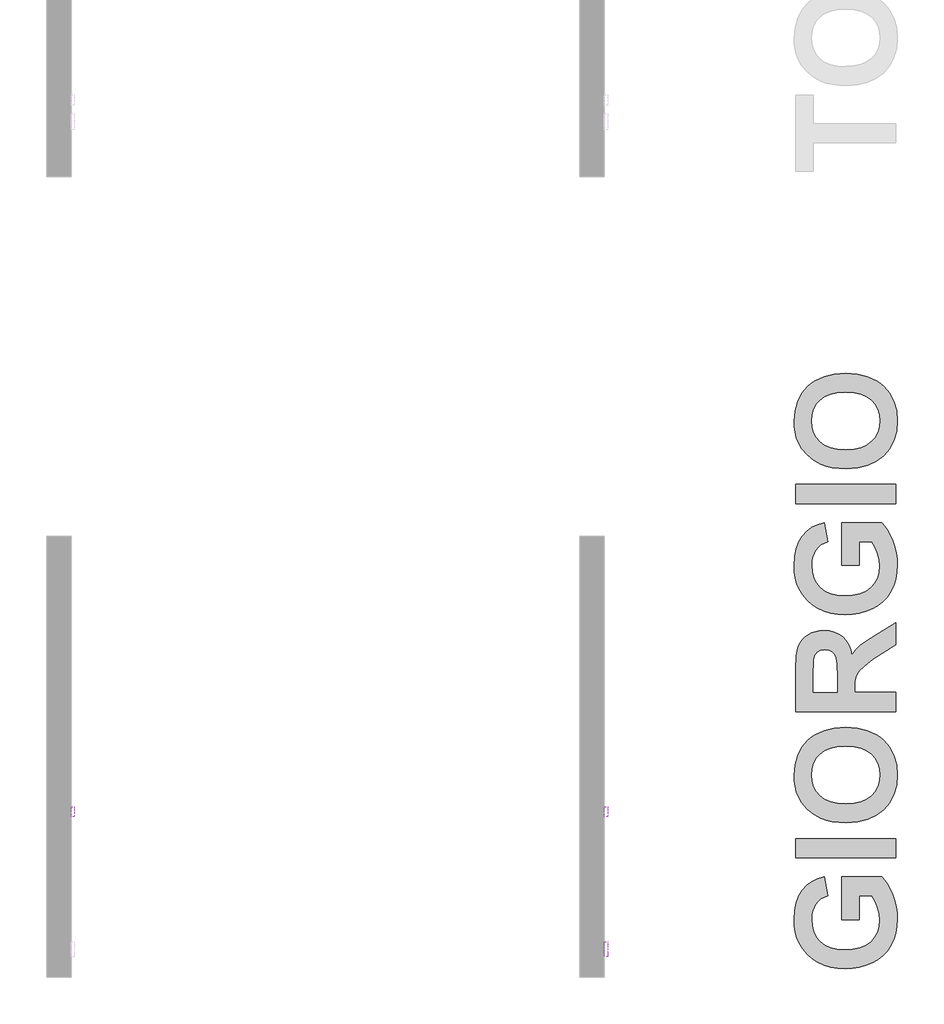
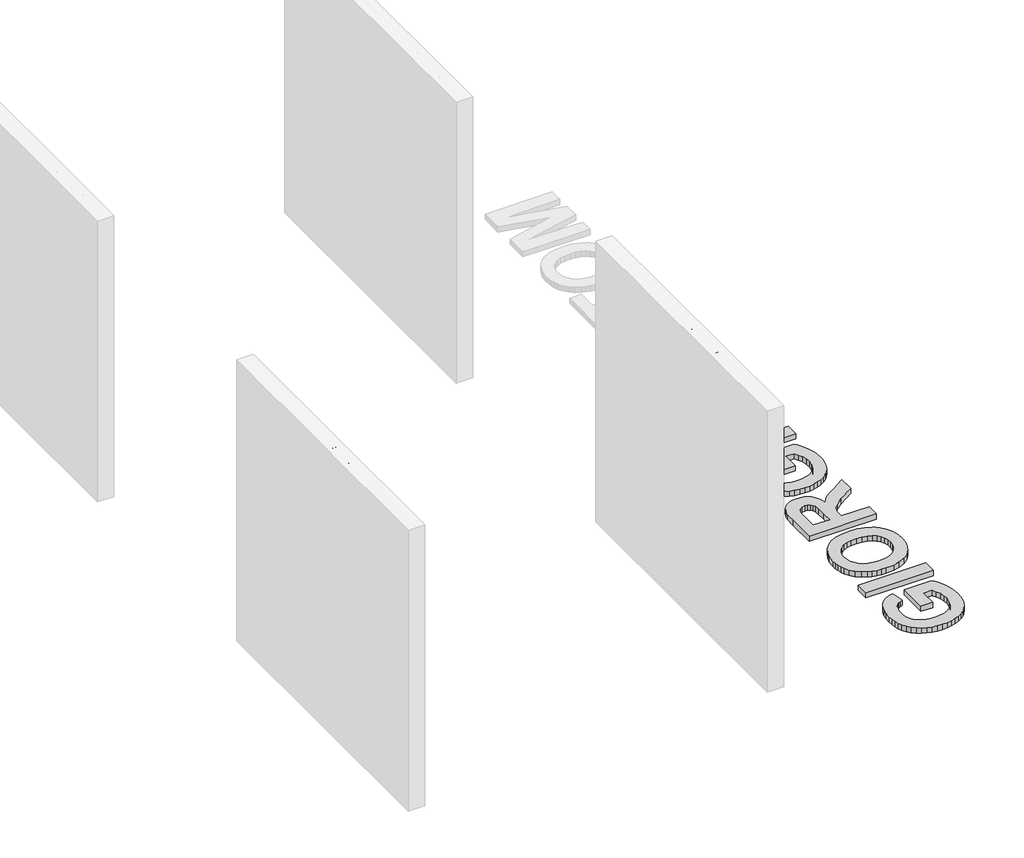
# One storey, part 3 of 6: 4 proxies.
"""IFC4 building model written with IfcOpenShell, lengths in millimetres."""

from ifc_helpers import new_model, si_unit, frame, origin, origin_with_axes, place, context, project, spatial, polyline, outline, extrude, element, save

model = new_model("IFC4")

# Units and contexts
model_context = context("Model", 3, world=origin())
ifc_project = project(units=[si_unit("LENGTHUNIT", "METRE", prefix="MILLI")], contexts=[model_context])

# Site, building, storey
site = spatial("IfcSite", under=ifc_project)
building = spatial("IfcBuilding", under=site)
storey = spatial("IfcBuildingStorey", under=building, Name="PORTOBELLO - SHOWROOM", Elevation=0.0)

# Proxies
placement = place(None, origin())
element("IfcBuildingElementProxy", 1, Name="10mm Arial", ObjectType="10mm Arial", at=placement, inside=storey, context=model_context, shape_type="SweptSolid", body=[
    extrude(outline(polyline([(-8147.5640107, 2596.6485127), (-8147.5640107, 2609.2055514), (-8106.7536347, 2609.2055514), (-8106.7536347, 2571.6570625), (-8126.9013053, 2559.8112622), (-8148.2016728, 2555.8381367), (-8162.2884876, 2557.4169636), (-8175.0202703, 2562.1534443), (-8185.5968776, 2569.8820318), (-8193.2181663, 2580.4371794), (-8197.8258883, 2593.0984514), (-8199.3617956, 2607.1454123), (-8197.8320197, 2621.2935407), (-8193.2426918, 2634.454519), (-8185.7838843, 2645.4940446), (-8175.6456697, 2653.2778145), (-8163.2970974, 2657.8947335), (-8149.2072169, 2659.4337065), (-8129.5623184, 2655.8652512), (-8115.791269, 2645.9324373), (-8108.2006372, 2629.3164338), (-8119.7766573, 2626.0545468), (-8125.5033537, 2637.6673551), (-8135.2890148, 2644.3628074), (-8149.4034207, 2646.8766677), (-8165.4798639, 2644.1666037), (-8176.4182218, 2637.0542185), (-8182.8806822, 2627.378922), (-8186.8047568, 2607.6604471), (-8182.0836046, 2585.7714684), (-8168.3493434, 2572.6748693), (-8149.2072169, 2568.3951754), (-8132.0271278, 2571.6202743), (-8119.3106735, 2578.4996676), (-8119.3106735, 2596.6485127), (-8147.5640107, 2596.6485127)])), frame((-9940.3623775, 0.0, 0.0), z_axis=(1.0, 0.0, 0.0), x_axis=(0.0, 1.0, 0.0)), (0.0, 0.0, 1.0), 20.0),
    extrude(outline(polyline([(-9920.3623775, -8075.3610378), (-9920.3623775, -8087.9180765), (-9940.3623775, -8087.9180765), (-9940.3623775, -8075.3610378), (-9920.3623775, -8075.3610378)])), frame((0.0, 0.0, 2645.3070379), z_axis=(0.0, 0.0, 1.0), x_axis=(1.0, 0.0, 0.0)), (0.0, 0.0, 1.0), 12.5570388),
    extrude(outline(polyline([(-9920.3623775, -8075.3610378), (-9920.3623775, -8087.9180765), (-9940.3623775, -8087.9180765), (-9940.3623775, -8075.3610378), (-9920.3623775, -8075.3610378)])), frame((0.0, 0.0, 2557.4077665), z_axis=(0.0, 0.0, 1.0), x_axis=(1.0, 0.0, 0.0)), (0.0, 0.0, 1.0), 73.7726028),
    extrude(outline(polyline([(-8059.6647393, 2594.2940679), (-8056.9485439, 2612.0811624), (-8048.7999577, 2624.5830188), (-8038.7322538, 2630.7082541), (-8026.6779871, 2632.7499991), (-8013.4863519, 2630.26373), (-8002.9495984, 2622.8049225), (-7996.0426139, 2610.962188), (-7993.7402858, 2595.3241375), (-7997.8115132, 2572.9814377), (-8009.6695762, 2560.3385598), (-8026.6779871, 2555.8381367), (-8040.0290378, 2558.3152088), (-8050.5535286, 2565.7464251), (-8057.3869366, 2577.83748), (-8059.6647393, 2594.2940679)]), holes=[polyline([(-8047.1077005, 2594.3185934), (-8045.6545667, 2582.9541054), (-8041.295165, 2574.8576358), (-8034.7346028, 2570.0107905), (-8026.6779871, 2568.3951754), (-8018.6581596, 2570.0199876), (-8012.1098601, 2574.894424), (-8007.7504584, 2583.0981925), (-8006.2973245, 2594.7110008), (-8007.7596555, 2605.744395), (-8012.1466483, 2613.7305), (-8018.7041448, 2618.5773453), (-8026.6779871, 2620.1929604), (-8034.7346028, 2618.5834766), (-8041.295165, 2613.7550255), (-8045.6545667, 2605.67695), (-8047.1077005, 2594.3185934)])]), frame((-9940.3623775, 0.0, 0.0), z_axis=(1.0, 0.0, 0.0), x_axis=(0.0, 1.0, 0.0)), (0.0, 0.0, 1.0), 20.0),
    extrude(outline(polyline([(-7979.6136172, 2557.4077665), (-7979.6136172, 2631.1803693), (-7968.6262082, 2631.1803693), (-7968.6262082, 2620.2665368), (-7960.8271099, 2630.321978), (-7952.9789607, 2632.7499991), (-7940.372871, 2628.8749755), (-7944.5667258, 2617.6177864), (-7953.3958936, 2620.1929604), (-7960.4960161, 2617.7158883), (-7965.0209647, 2610.8487577), (-7967.0565784, 2596.1825288), (-7967.0565784, 2557.4077665), (-7979.6136172, 2557.4077665)])), frame((-9940.3623775, 0.0, 0.0), z_axis=(1.0, 0.0, 0.0), x_axis=(0.0, 1.0, 0.0)), (0.0, 0.0, 1.0), 20.0),
    extrude(outline(polyline([(-7935.6639815, 2551.1292471), (-7923.1069427, 2549.5596173), (-7919.0357153, 2542.9377414), (-7906.8465585, 2540.1418382), (-7893.9952142, 2543.3056234), (-7887.8638476, 2552.1838422), (-7887.0054562, 2566.8255456), (-7895.8468869, 2559.7622113), (-7906.6258293, 2557.4077665), (-7919.5722099, 2560.1484874), (-7929.2260466, 2568.37065), (-7935.2317201, 2580.4249167), (-7937.2336113, 2594.6619499), (-7933.6406305, 2614.1229074), (-7923.2418328, 2627.8939568), (-7907.238966, 2632.7499991), (-7896.0369592, 2630.0031469), (-7887.0054562, 2621.7625902), (-7887.0054562, 2631.1803693), (-7874.4484175, 2631.1803693), (-7874.4484175, 2567.4877332), (-7877.8819828, 2543.0971569), (-7888.7590271, 2531.7541287), (-7907.0918132, 2527.5847994), (-7918.7751322, 2529.0532617), (-7927.9752478, 2533.4586486), (-7933.8766881, 2540.8132229), (-7935.6639815, 2551.1292471)]), holes=[polyline([(-7924.6765726, 2595.5203412), (-7923.336869, 2584.0025691), (-7919.3177582, 2576.0839091), (-7913.2752964, 2571.4945813), (-7905.8655399, 2569.9648053), (-7898.5109656, 2571.4853842), (-7892.437847, 2576.0471209), (-7888.3635539, 2583.8646133), (-7887.0054562, 2595.1524592), (-7888.4034078, 2606.0387006), (-7892.5972626, 2613.8776528), (-7898.759286, 2618.6141335), (-7906.0617436, 2620.1929604), (-7913.2323768, 2618.6386589), (-7919.2441818, 2613.9757546), (-7923.3184749, 2606.2532984), (-7924.6765726, 2595.5203412)])]), frame((-9940.3623775, 0.0, 0.0), z_axis=(1.0, 0.0, 0.0), x_axis=(0.0, 1.0, 0.0)), (0.0, 0.0, 1.0), 20.0),
    extrude(outline(polyline([(-9920.3623775, -7843.0558206), (-9920.3623775, -7855.6128593), (-9940.3623775, -7855.6128593), (-9940.3623775, -7843.0558206), (-9920.3623775, -7843.0558206)])), frame((0.0, 0.0, 2645.3070379), z_axis=(0.0, 0.0, 1.0), x_axis=(1.0, 0.0, 0.0)), (0.0, 0.0, 1.0), 12.5570388),
    extrude(outline(polyline([(-9920.3623775, -7843.0558206), (-9920.3623775, -7855.6128593), (-9940.3623775, -7855.6128593), (-9940.3623775, -7843.0558206), (-9920.3623775, -7843.0558206)])), frame((0.0, 0.0, 2557.4077665), z_axis=(0.0, 0.0, 1.0), x_axis=(1.0, 0.0, 0.0)), (0.0, 0.0, 1.0), 73.7726028),
    extrude(outline(polyline([(-7827.3595221, 2594.2940679), (-7824.6433267, 2612.0811624), (-7816.4947405, 2624.5830188), (-7806.4270366, 2630.7082541), (-7794.3727699, 2632.7499991), (-7781.1811346, 2630.26373), (-7770.6443812, 2622.8049225), (-7763.7373967, 2610.962188), (-7761.4350686, 2595.3241375), (-7765.506296, 2572.9814377), (-7777.3643589, 2560.3385598), (-7794.3727699, 2555.8381367), (-7807.7238206, 2558.3152088), (-7818.2483113, 2565.7464251), (-7825.0817194, 2577.83748), (-7827.3595221, 2594.2940679)]), holes=[polyline([(-7814.8024833, 2594.3185934), (-7813.3493494, 2582.9541054), (-7808.9899478, 2574.8576358), (-7802.4293856, 2570.0107905), (-7794.3727699, 2568.3951754), (-7786.3529424, 2570.0199876), (-7779.8046428, 2574.894424), (-7775.4452412, 2583.0981925), (-7773.9921073, 2594.7110008), (-7775.4544383, 2605.744395), (-7779.841431, 2613.7305), (-7786.3989276, 2618.5773453), (-7794.3727699, 2620.1929604), (-7802.4293856, 2618.5834766), (-7808.9899478, 2613.7550255), (-7813.3493494, 2605.67695), (-7814.8024833, 2594.3185934)])]), frame((-9940.3623775, 0.0, 0.0), z_axis=(1.0, 0.0, 0.0), x_axis=(0.0, 1.0, 0.0)), (0.0, 0.0, 1.0), 20.0),
    extrude(outline(polyline([(-7706.4980239, 2557.4077665), (-7706.4980239, 2657.8640767), (-7668.16472, 2657.8640767), (-7649.3904756, 2654.908758), (-7638.3049648, 2645.8220727), (-7634.295051, 2632.9707283), (-7637.6673026, 2621.2352927), (-7647.8576339, 2612.3448111), (-7635.4845361, 2602.976083), (-7631.1557913, 2587.3533609), (-7634.11111, 2573.8520917), (-7641.4319617, 2564.2381089), (-7652.358057, 2559.1368119), (-7668.4590256, 2557.4077665), (-7706.4980239, 2557.4077665)]), holes=[polyline([(-7693.9409852, 2617.0537007), (-7671.0096741, 2617.0537007), (-7657.6187695, 2618.1328212), (-7649.5621538, 2622.7803971), (-7646.8520898, 2630.9596401), (-7649.3782128, 2639.1511459), (-7656.6132254, 2643.9949255), (-7672.7509823, 2645.3070379), (-7693.9409852, 2645.3070379), (-7693.9409852, 2617.0537007)]), polyline([(-7693.9409852, 2569.9648053), (-7668.1892455, 2569.9648053), (-7658.8695683, 2570.4553146), (-7650.9846309, 2573.1899041), (-7645.7607065, 2578.7694477), (-7643.7128301, 2587.2307336), (-7646.1163258, 2596.9918692), (-7653.9031614, 2602.8166675), (-7669.4155188, 2604.4966619), (-7693.9409852, 2604.4966619), (-7693.9409852, 2569.9648053)])]), frame((-9940.3623775, 0.0, 0.0), z_axis=(1.0, 0.0, 0.0), x_axis=(0.0, 1.0, 0.0)), (0.0, 0.0, 1.0), 20.0),
    extrude(outline(polyline([(-7615.4594929, 2557.4077665), (-7615.4594929, 2631.1803693), (-7604.4720839, 2631.1803693), (-7604.4720839, 2620.2665368), (-7596.6729857, 2630.321978), (-7588.8248364, 2632.7499991), (-7576.2187467, 2628.8749755), (-7580.4126015, 2617.6177864), (-7589.2417693, 2620.1929604), (-7596.3418919, 2617.7158883), (-7600.8668404, 2610.8487577), (-7602.9024541, 2596.1825288), (-7602.9024541, 2557.4077665), (-7615.4594929, 2557.4077665)])), frame((-9940.3623775, 0.0, 0.0), z_axis=(1.0, 0.0, 0.0), x_axis=(0.0, 1.0, 0.0)), (0.0, 0.0, 1.0), 20.0),
    extrude(outline(polyline([(-9920.3623775, -7555.8135587), (-9920.3623775, -7568.3705975), (-9940.3623775, -7568.3705975), (-9940.3623775, -7555.8135587), (-9920.3623775, -7555.8135587)])), frame((0.0, 0.0, 2645.3070379), z_axis=(0.0, 0.0, 1.0), x_axis=(1.0, 0.0, 0.0)), (0.0, 0.0, 1.0), 12.5570388),
    extrude(outline(polyline([(-9920.3623775, -7555.8135587), (-9920.3623775, -7568.3705975), (-9940.3623775, -7568.3705975), (-9940.3623775, -7555.8135587), (-9920.3623775, -7555.8135587)])), frame((0.0, 0.0, 2557.4077665), z_axis=(0.0, 0.0, 1.0), x_axis=(1.0, 0.0, 0.0)), (0.0, 0.0, 1.0), 73.7726028),
    extrude(outline(polyline([(-7489.8891052, 2584.0914739), (-7477.3320664, 2582.5218441), (-7480.8330767, 2571.3535598), (-7487.4120331, 2562.9137337), (-7496.4496674, 2557.6070359), (-7507.3267118, 2555.8381367), (-7520.6838939, 2558.3060117), (-7531.1286768, 2565.7096369), (-7537.8701144, 2577.7240497), (-7540.1172603, 2594.0242878), (-7536.2790248, 2614.8831969), (-7524.5803773, 2628.2863643), (-7507.49839, 2632.7499991), (-7496.8880601, 2631.2171575), (-7488.4053145, 2626.6186325), (-7482.3199331, 2619.199679), (-7478.9016963, 2609.2055514), (-7491.458735, 2607.6359216), (-7497.2835333, 2617.0414379), (-7507.4002882, 2620.1929604), (-7515.5151518, 2618.6417246), (-7521.9561524, 2613.9880174), (-7526.1592042, 2605.9804526), (-7527.5602215, 2594.3676443), (-7526.1898611, 2582.5984861), (-7522.0787798, 2574.5633302), (-7515.7542751, 2569.9372141), (-7507.7436447, 2568.3951754), (-7495.9101072, 2572.2456737), (-7489.8891052, 2584.0914739)])), frame((-9940.3623775, 0.0, 0.0), z_axis=(1.0, 0.0, 0.0), x_axis=(0.0, 1.0, 0.0)), (0.0, 0.0, 1.0), 20.0),
    extrude(outline(polyline([(-7466.3446575, 2557.4077665), (-7466.3446575, 2657.8640767), (-7453.7876187, 2657.8640767), (-7453.7876187, 2603.8835252), (-7425.6323834, 2631.1803693), (-7408.2683532, 2631.1803693), (-7436.7669451, 2603.5401687), (-7406.6987233, 2557.4077665), (-7421.3649522, 2557.4077665), (-7445.7677912, 2594.8091027), (-7453.7876187, 2587.0345299), (-7453.7876187, 2557.4077665), (-7466.3446575, 2557.4077665)])), frame((-9940.3623775, 0.0, 0.0), z_axis=(1.0, 0.0, 0.0), x_axis=(0.0, 1.0, 0.0)), (0.0, 0.0, 1.0), 20.0),
])
element("IfcBuildingElementProxy", 2, Name="10mm Arial Narrow", ObjectType="10mm Arial Narrow", at=placement, inside=storey, context=model_context, shape_type="SweptSolid", body=[
    extrude(outline(polyline([(-7344.5843991, 2557.4077665), (-7344.5843991, 2658.1263703), (-7313.2875144, 2658.1263703), (-7296.9918129, 2656.2480495), (-7285.5188268, 2646.7676064), (-7281.2291483, 2629.7484975), (-7283.0154568, 2617.672672), (-7288.374382, 2608.0462782), (-7298.1181708, 2601.7450198), (-7313.05907, 2599.6446004), (-7334.8374374, 2599.6446004), (-7334.8374374, 2557.4077665), (-7344.5843991, 2557.4077665)]), holes=[polyline([(-7334.8374374, 2611.0160556), (-7311.8660825, 2611.0160556), (-7296.0018871, 2615.5468698), (-7290.97611, 2629.2154606), (-7293.4509245, 2639.381237), (-7299.4285533, 2645.1811868), (-7312.0945269, 2646.754915), (-7334.8374374, 2646.754915), (-7334.8374374, 2611.0160556)])]), frame((-13204.6123775, 0.0, 0.0), z_axis=(1.0, 0.0, 0.0), x_axis=(0.0, 1.0, 0.0)), (0.0, 0.0, 1.0), 20.0),
    extrude(outline(polyline([(-7273.1066803, 2593.9588727), (-7271.1522114, 2610.5496483), (-7265.2888048, 2622.5017331), (-7256.4302381, 2629.7262877), (-7245.490289, 2632.1344725), (-7234.6772534, 2629.7262877), (-7225.7933039, 2622.5017331), (-7219.8537492, 2610.7400186), (-7217.8738976, 2594.7203541), (-7219.818848, 2577.5584675), (-7225.653699, 2565.4160124), (-7234.5027472, 2558.1914578), (-7245.490289, 2555.7832729), (-7256.3509171, 2558.1978035), (-7265.225348, 2565.4413951), (-7271.1363472, 2577.3998256), (-7273.1066803, 2593.9588727)]), holes=[polyline([(-7263.3597187, 2593.9842554), (-7262.0556818, 2581.432504), (-7258.1435712, 2572.561246), (-7252.3023745, 2567.2879874), (-7245.2110791, 2565.5302346), (-7238.4910059, 2567.3038516), (-7232.7989326, 2572.6247027), (-7228.9153776, 2581.511825), (-7227.6208593, 2593.9842554), (-7228.9248961, 2606.4979328), (-7232.8370067, 2615.3564995), (-7238.6782034, 2620.629758), (-7245.7694988, 2622.3875109), (-7252.5371645, 2620.6202395), (-7258.2197193, 2615.3184254), (-7262.0747188, 2606.4503402), (-7263.3597187, 2593.9842554)])]), frame((-13204.6123775, 0.0, 0.0), z_axis=(1.0, 0.0, 0.0), x_axis=(0.0, 1.0, 0.0)), (0.0, 0.0, 1.0), 20.0),
    extrude(outline(polyline([(-7146.3961788, 2565.5302346), (-7144.7716852, 2555.7832729), (-7152.1326719, 2555.7832729), (-7160.4074362, 2557.9027294), (-7164.7224973, 2563.7026793), (-7165.8901021, 2578.3485044), (-7165.8901021, 2620.7630173), (-7174.0125702, 2620.7630173), (-7174.0125702, 2624.0120045), (-7175.6370638, 2619.1385237), (-7183.2011121, 2620.7630173), (-7189.2802718, 2618.4404991), (-7193.1511355, 2611.955216), (-7195.1309871, 2596.5479094), (-7195.1309871, 2557.4077665), (-7204.8779487, 2557.4077665), (-7204.8779487, 2630.5099789), (-7195.1309871, 2630.5099789), (-7195.1309871, 2620.8137827), (-7188.8868398, 2629.9007938), (-7182.4903962, 2632.1344725), (-7174.0125702, 2630.5099789), (-7165.8901021, 2630.5099789), (-7165.8901021, 2646.754915), (-7156.1431405, 2654.8773831), (-7156.1431405, 2630.5099789), (-7146.3961788, 2630.5099789), (-7146.3961788, 2620.7630173), (-7156.1431405, 2620.7630173), (-7156.1431405, 2576.1148257), (-7155.2801282, 2568.1192713), (-7150.6604745, 2565.5302346), (-7146.3961788, 2565.5302346)])), frame((-13204.6123775, 0.0, 0.0), z_axis=(1.0, 0.0, 0.0), x_axis=(0.0, 1.0, 0.0)), (0.0, 0.0, 1.0), 20.0),
    extrude(outline(polyline([(-7139.8982044, 2593.9588727), (-7137.9437355, 2610.5496483), (-7132.0803289, 2622.5017331), (-7123.2217622, 2629.7262877), (-7112.281813, 2632.1344725), (-7101.4687774, 2629.7262877), (-7092.584828, 2622.5017331), (-7086.6452733, 2610.7400186), (-7084.6654217, 2594.7203541), (-7086.610372, 2577.5584675), (-7092.4452231, 2565.4160124), (-7101.2942713, 2558.1914578), (-7112.281813, 2555.7832729), (-7123.1424412, 2558.1978035), (-7132.0168721, 2565.4413951), (-7137.9278713, 2577.3998256), (-7139.8982044, 2593.9588727)]), holes=[polyline([(-7130.1512427, 2593.9842554), (-7128.8472059, 2581.432504), (-7124.9350953, 2572.561246), (-7119.0938985, 2567.2879874), (-7112.0026032, 2565.5302346), (-7105.28253, 2567.3038516), (-7099.5904567, 2572.6247027), (-7095.7069017, 2581.511825), (-7094.4123833, 2593.9842554), (-7095.7164202, 2606.4979328), (-7099.6285308, 2615.3564995), (-7105.4697275, 2620.629758), (-7112.5610229, 2622.3875109), (-7119.3286886, 2620.6202395), (-7125.0112434, 2615.3184254), (-7128.8662429, 2606.4503402), (-7130.1512427, 2593.9842554)])]), frame((-13204.6123775, 0.0, 0.0), z_axis=(1.0, 0.0, 0.0), x_axis=(0.0, 1.0, 0.0)), (0.0, 0.0, 1.0), 20.0),
    extrude(outline(polyline([(-7061.9225111, 2557.4077665), (-7071.6694728, 2557.4077665), (-7071.6694728, 2658.1263703), (-7061.9225111, 2658.1263703), (-7061.9225111, 2622.7174861), (-7054.5234504, 2629.799263), (-7045.3222171, 2632.1344725), (-7032.4404904, 2627.9336336), (-7023.1631089, 2615.2042032), (-7019.6856773, 2594.5172924), (-7021.6179363, 2578.0629489), (-7027.4147133, 2565.8602098), (-7035.7878356, 2558.3025071), (-7045.4491306, 2555.7832729), (-7054.7899689, 2558.3976923), (-7061.9225111, 2566.1648024), (-7061.9225111, 2557.4077665)]), holes=[polyline([(-7061.9225111, 2594.5172924), (-7059.8411287, 2577.2697392), (-7053.9523394, 2568.538086), (-7045.4998961, 2565.5302346), (-7039.5571685, 2567.3197158), (-7034.3188111, 2572.6881595), (-7029.432639, 2594.111169), (-7034.1411322, 2615.5468698), (-7039.3858352, 2620.6773506), (-7045.7029578, 2622.3875109), (-7051.6805866, 2620.5980296), (-7056.9728822, 2615.2295859), (-7061.9225111, 2594.5172924)])]), frame((-13204.6123775, 0.0, 0.0), z_axis=(1.0, 0.0, 0.0), x_axis=(0.0, 1.0, 0.0)), (0.0, 0.0, 1.0), 20.0),
    extrude(outline(polyline([(-6967.7018818, 2580.150677), (-6957.9549202, 2578.5261834), (-6961.6544505, 2568.6396169), (-6967.4734374, 2561.519766), (-6975.1770907, 2557.2173962), (-6984.5306203, 2555.7832729), (-6996.1241743, 2558.1978035), (-7005.2682965, 2565.4413951), (-7011.2078513, 2577.2475293), (-7013.1877029, 2593.3496876), (-7011.1983328, 2610.0166113), (-7005.2302225, 2622.1971405), (-6996.2161866, 2629.6501395), (-6985.08904, 2632.1344725), (-6974.4060908, 2629.7358062), (-6965.6585735, 2622.5398072), (-6959.8237224, 2610.8003026), (-6957.878772, 2594.7711195), (-6957.9549202, 2591.5221323), (-7003.4407412, 2591.5221323), (-6997.4377297, 2572.0789744), (-6991.5076934, 2567.1674195), (-6984.4037067, 2565.5302346), (-6974.225239, 2569.1853452), (-6967.7018818, 2580.150677)]), holes=[polyline([(-7002.7807907, 2601.269094), (-6967.7018818, 2601.269094), (-6971.9661776, 2615.5341785), (-6977.7915101, 2620.6741778), (-6985.0128918, 2622.3875109), (-6997.2219766, 2616.6764005), (-7002.7807907, 2601.269094)])]), frame((-13204.6123775, 0.0, 0.0), z_axis=(1.0, 0.0, 0.0), x_axis=(0.0, 1.0, 0.0)), (0.0, 0.0, 1.0), 20.0),
    extrude(outline(polyline([(-13184.6123775, -6935.2120096), (-13184.6123775, -6944.9589713), (-13204.6123775, -6944.9589713), (-13204.6123775, -6935.2120096), (-13184.6123775, -6935.2120096)])), frame((0.0, 0.0, 2557.4077665), z_axis=(0.0, 0.0, 1.0), x_axis=(1.0, 0.0, 0.0)), (0.0, 0.0, 1.0), 100.7186038),
    extrude(outline(polyline([(-13184.6123775, -6909.2201119), (-13184.6123775, -6918.9670736), (-13204.6123775, -6918.9670736), (-13204.6123775, -6909.2201119), (-13184.6123775, -6909.2201119)])), frame((0.0, 0.0, 2557.4077665), z_axis=(0.0, 0.0, 1.0), x_axis=(1.0, 0.0, 0.0)), (0.0, 0.0, 1.0), 100.7186038),
    extrude(outline(polyline([(-6897.8486566, 2593.9588727), (-6895.8941878, 2610.5496483), (-6890.0307812, 2622.5017331), (-6881.1722144, 2629.7262877), (-6870.2322653, 2632.1344725), (-6859.4192297, 2629.7262877), (-6850.5352803, 2622.5017331), (-6844.5957255, 2610.7400186), (-6842.6158739, 2594.7203541), (-6844.5608243, 2577.5584675), (-6850.3956754, 2565.4160124), (-6859.2447236, 2558.1914578), (-6870.2322653, 2555.7832729), (-6881.0928935, 2558.1978035), (-6889.9673244, 2565.4413951), (-6895.8783236, 2577.3998256), (-6897.8486566, 2593.9588727)]), holes=[polyline([(-6888.101695, 2593.9842554), (-6886.7976581, 2581.432504), (-6882.8855475, 2572.561246), (-6877.0443508, 2567.2879874), (-6869.9530555, 2565.5302346), (-6863.2329823, 2567.3038516), (-6857.540909, 2572.6247027), (-6853.6573539, 2581.511825), (-6852.3628356, 2593.9842554), (-6853.6668725, 2606.4979328), (-6857.578983, 2615.3564995), (-6863.4201798, 2620.629758), (-6870.5114751, 2622.3875109), (-6877.2791409, 2620.6202395), (-6882.9616957, 2615.3184254), (-6886.8166952, 2606.4503402), (-6888.101695, 2593.9842554)])]), frame((-13204.6123775, 0.0, 0.0), z_axis=(1.0, 0.0, 0.0), x_axis=(0.0, 1.0, 0.0)), (0.0, 0.0, 1.0), 20.0),
])
element("IfcBuildingElementProxy", 3, Name="10mm Arial Narrow", ObjectType="10mm Arial Narrow", at=placement, inside=storey, context=model_context, shape_type="SweptSolid", body=[
    extrude(outline(polyline([(-7344.5843991, 2557.4077665), (-7344.5843991, 2658.1263703), (-7313.2875144, 2658.1263703), (-7296.9918129, 2656.2480495), (-7285.5188268, 2646.7676064), (-7281.2291483, 2629.7484975), (-7283.0154568, 2617.672672), (-7288.374382, 2608.0462782), (-7298.1181708, 2601.7450198), (-7313.05907, 2599.6446004), (-7334.8374374, 2599.6446004), (-7334.8374374, 2557.4077665), (-7344.5843991, 2557.4077665)]), holes=[polyline([(-7334.8374374, 2611.0160556), (-7311.8660825, 2611.0160556), (-7296.0018871, 2615.5468698), (-7290.97611, 2629.2154606), (-7293.4509245, 2639.381237), (-7299.4285533, 2645.1811868), (-7312.0945269, 2646.754915), (-7334.8374374, 2646.754915), (-7334.8374374, 2611.0160556)])]), frame((-9940.3623775, 0.0, 0.0), z_axis=(1.0, 0.0, 0.0), x_axis=(0.0, 1.0, 0.0)), (0.0, 0.0, 1.0), 20.0),
    extrude(outline(polyline([(-7273.1066803, 2593.9588727), (-7271.1522114, 2610.5496483), (-7265.2888048, 2622.5017331), (-7256.4302381, 2629.7262877), (-7245.490289, 2632.1344725), (-7234.6772534, 2629.7262877), (-7225.7933039, 2622.5017331), (-7219.8537492, 2610.7400186), (-7217.8738976, 2594.7203541), (-7219.818848, 2577.5584675), (-7225.653699, 2565.4160124), (-7234.5027472, 2558.1914578), (-7245.490289, 2555.7832729), (-7256.3509171, 2558.1978035), (-7265.225348, 2565.4413951), (-7271.1363472, 2577.3998256), (-7273.1066803, 2593.9588727)]), holes=[polyline([(-7263.3597187, 2593.9842554), (-7262.0556818, 2581.432504), (-7258.1435712, 2572.561246), (-7252.3023745, 2567.2879874), (-7245.2110791, 2565.5302346), (-7238.4910059, 2567.3038516), (-7232.7989326, 2572.6247027), (-7228.9153776, 2581.511825), (-7227.6208593, 2593.9842554), (-7228.9248961, 2606.4979328), (-7232.8370067, 2615.3564995), (-7238.6782034, 2620.629758), (-7245.7694988, 2622.3875109), (-7252.5371645, 2620.6202395), (-7258.2197193, 2615.3184254), (-7262.0747188, 2606.4503402), (-7263.3597187, 2593.9842554)])]), frame((-9940.3623775, 0.0, 0.0), z_axis=(1.0, 0.0, 0.0), x_axis=(0.0, 1.0, 0.0)), (0.0, 0.0, 1.0), 20.0),
    extrude(outline(polyline([(-7146.3961788, 2565.5302346), (-7144.7716852, 2555.7832729), (-7152.1326719, 2555.7832729), (-7160.4074362, 2557.9027294), (-7164.7224973, 2563.7026793), (-7165.8901021, 2578.3485044), (-7165.8901021, 2620.7630173), (-7174.0125702, 2620.7630173), (-7174.0125702, 2624.0120045), (-7175.6370638, 2619.1385237), (-7183.2011121, 2620.7630173), (-7189.2802718, 2618.4404991), (-7193.1511355, 2611.955216), (-7195.1309871, 2596.5479094), (-7195.1309871, 2557.4077665), (-7204.8779487, 2557.4077665), (-7204.8779487, 2630.5099789), (-7195.1309871, 2630.5099789), (-7195.1309871, 2620.8137827), (-7188.8868398, 2629.9007938), (-7182.4903962, 2632.1344725), (-7174.0125702, 2630.5099789), (-7165.8901021, 2630.5099789), (-7165.8901021, 2646.754915), (-7156.1431405, 2654.8773831), (-7156.1431405, 2630.5099789), (-7146.3961788, 2630.5099789), (-7146.3961788, 2620.7630173), (-7156.1431405, 2620.7630173), (-7156.1431405, 2576.1148257), (-7155.2801282, 2568.1192713), (-7150.6604745, 2565.5302346), (-7146.3961788, 2565.5302346)])), frame((-9940.3623775, 0.0, 0.0), z_axis=(1.0, 0.0, 0.0), x_axis=(0.0, 1.0, 0.0)), (0.0, 0.0, 1.0), 20.0),
    extrude(outline(polyline([(-7139.8982044, 2593.9588727), (-7137.9437355, 2610.5496483), (-7132.0803289, 2622.5017331), (-7123.2217622, 2629.7262877), (-7112.281813, 2632.1344725), (-7101.4687774, 2629.7262877), (-7092.584828, 2622.5017331), (-7086.6452733, 2610.7400186), (-7084.6654217, 2594.7203541), (-7086.610372, 2577.5584675), (-7092.4452231, 2565.4160124), (-7101.2942713, 2558.1914578), (-7112.281813, 2555.7832729), (-7123.1424412, 2558.1978035), (-7132.0168721, 2565.4413951), (-7137.9278713, 2577.3998256), (-7139.8982044, 2593.9588727)]), holes=[polyline([(-7130.1512427, 2593.9842554), (-7128.8472059, 2581.432504), (-7124.9350953, 2572.561246), (-7119.0938985, 2567.2879874), (-7112.0026032, 2565.5302346), (-7105.28253, 2567.3038516), (-7099.5904567, 2572.6247027), (-7095.7069017, 2581.511825), (-7094.4123833, 2593.9842554), (-7095.7164202, 2606.4979328), (-7099.6285308, 2615.3564995), (-7105.4697275, 2620.629758), (-7112.5610229, 2622.3875109), (-7119.3286886, 2620.6202395), (-7125.0112434, 2615.3184254), (-7128.8662429, 2606.4503402), (-7130.1512427, 2593.9842554)])]), frame((-9940.3623775, 0.0, 0.0), z_axis=(1.0, 0.0, 0.0), x_axis=(0.0, 1.0, 0.0)), (0.0, 0.0, 1.0), 20.0),
    extrude(outline(polyline([(-7061.9225111, 2557.4077665), (-7071.6694728, 2557.4077665), (-7071.6694728, 2658.1263703), (-7061.9225111, 2658.1263703), (-7061.9225111, 2622.7174861), (-7054.5234504, 2629.799263), (-7045.3222171, 2632.1344725), (-7032.4404904, 2627.9336336), (-7023.1631089, 2615.2042032), (-7019.6856773, 2594.5172924), (-7021.6179363, 2578.0629489), (-7027.4147133, 2565.8602098), (-7035.7878356, 2558.3025071), (-7045.4491306, 2555.7832729), (-7054.7899689, 2558.3976923), (-7061.9225111, 2566.1648024), (-7061.9225111, 2557.4077665)]), holes=[polyline([(-7061.9225111, 2594.5172924), (-7059.8411287, 2577.2697392), (-7053.9523394, 2568.538086), (-7045.4998961, 2565.5302346), (-7039.5571685, 2567.3197158), (-7034.3188111, 2572.6881595), (-7029.432639, 2594.111169), (-7034.1411322, 2615.5468698), (-7039.3858352, 2620.6773506), (-7045.7029578, 2622.3875109), (-7051.6805866, 2620.5980296), (-7056.9728822, 2615.2295859), (-7061.9225111, 2594.5172924)])]), frame((-9940.3623775, 0.0, 0.0), z_axis=(1.0, 0.0, 0.0), x_axis=(0.0, 1.0, 0.0)), (0.0, 0.0, 1.0), 20.0),
    extrude(outline(polyline([(-6967.7018818, 2580.150677), (-6957.9549202, 2578.5261834), (-6961.6544505, 2568.6396169), (-6967.4734374, 2561.519766), (-6975.1770907, 2557.2173962), (-6984.5306203, 2555.7832729), (-6996.1241743, 2558.1978035), (-7005.2682965, 2565.4413951), (-7011.2078513, 2577.2475293), (-7013.1877029, 2593.3496876), (-7011.1983328, 2610.0166113), (-7005.2302225, 2622.1971405), (-6996.2161866, 2629.6501395), (-6985.08904, 2632.1344725), (-6974.4060908, 2629.7358062), (-6965.6585735, 2622.5398072), (-6959.8237224, 2610.8003026), (-6957.878772, 2594.7711195), (-6957.9549202, 2591.5221323), (-7003.4407412, 2591.5221323), (-6997.4377297, 2572.0789744), (-6991.5076934, 2567.1674195), (-6984.4037067, 2565.5302346), (-6974.225239, 2569.1853452), (-6967.7018818, 2580.150677)]), holes=[polyline([(-7002.7807907, 2601.269094), (-6967.7018818, 2601.269094), (-6971.9661776, 2615.5341785), (-6977.7915101, 2620.6741778), (-6985.0128918, 2622.3875109), (-6997.2219766, 2616.6764005), (-7002.7807907, 2601.269094)])]), frame((-9940.3623775, 0.0, 0.0), z_axis=(1.0, 0.0, 0.0), x_axis=(0.0, 1.0, 0.0)), (0.0, 0.0, 1.0), 20.0),
    extrude(outline(polyline([(-9920.3623775, -6935.2120096), (-9920.3623775, -6944.9589713), (-9940.3623775, -6944.9589713), (-9940.3623775, -6935.2120096), (-9920.3623775, -6935.2120096)])), frame((0.0, 0.0, 2557.4077665), z_axis=(0.0, 0.0, 1.0), x_axis=(1.0, 0.0, 0.0)), (0.0, 0.0, 1.0), 100.7186038),
    extrude(outline(polyline([(-9920.3623775, -6909.2201119), (-9920.3623775, -6918.9670736), (-9940.3623775, -6918.9670736), (-9940.3623775, -6909.2201119), (-9920.3623775, -6909.2201119)])), frame((0.0, 0.0, 2557.4077665), z_axis=(0.0, 0.0, 1.0), x_axis=(1.0, 0.0, 0.0)), (0.0, 0.0, 1.0), 100.7186038),
    extrude(outline(polyline([(-6897.8486566, 2593.9588727), (-6895.8941878, 2610.5496483), (-6890.0307812, 2622.5017331), (-6881.1722144, 2629.7262877), (-6870.2322653, 2632.1344725), (-6859.4192297, 2629.7262877), (-6850.5352803, 2622.5017331), (-6844.5957255, 2610.7400186), (-6842.6158739, 2594.7203541), (-6844.5608243, 2577.5584675), (-6850.3956754, 2565.4160124), (-6859.2447236, 2558.1914578), (-6870.2322653, 2555.7832729), (-6881.0928935, 2558.1978035), (-6889.9673244, 2565.4413951), (-6895.8783236, 2577.3998256), (-6897.8486566, 2593.9588727)]), holes=[polyline([(-6888.101695, 2593.9842554), (-6886.7976581, 2581.432504), (-6882.8855475, 2572.561246), (-6877.0443508, 2567.2879874), (-6869.9530555, 2565.5302346), (-6863.2329823, 2567.3038516), (-6857.540909, 2572.6247027), (-6853.6573539, 2581.511825), (-6852.3628356, 2593.9842554), (-6853.6668725, 2606.4979328), (-6857.578983, 2615.3564995), (-6863.4201798, 2620.629758), (-6870.5114751, 2622.3875109), (-6877.2791409, 2620.6202395), (-6882.9616957, 2615.3184254), (-6886.8166952, 2606.4503402), (-6888.101695, 2593.9842554)])]), frame((-9940.3623775, 0.0, 0.0), z_axis=(1.0, 0.0, 0.0), x_axis=(0.0, 1.0, 0.0)), (0.0, 0.0, 1.0), 20.0),
])
element("IfcBuildingElementProxy", 4, Name="600mm Arial", ObjectType="600mm Arial", at=placement, inside=storey, context=model_context, shape_type="SweptSolid", body=[
    extrude(outline(polyline([(-8380.5487335, -7971.5664023), (-8487.4330516, -7971.5664023), (-8487.4330516, -7709.2139852), (-8243.2995523, -7709.2139852), (-8224.8196864, -7730.4883674), (-8207.4879919, -7756.0517865), (-8176.269117, -7820.0457355), (-8163.6155092, -7856.4456151), (-8154.5772179, -7893.0732312), (-8149.1542432, -7929.9285838), (-8147.3465849, -7967.0116728), (-8149.8611751, -8012.7202808), (-8157.4049458, -8055.4113805), (-8169.9778969, -8095.084972), (-8187.5800285, -8131.7410551), (-8209.8555023, -8164.7059096), (-8236.4484801, -8193.305815), (-8267.3589618, -8217.5407714), (-8302.5869475, -8237.4107787), (-8340.7944854, -8252.8873698), (-8380.6436237, -8263.9420778), (-8422.1343624, -8270.5749026), (-8465.2667015, -8272.7858442), (-8511.6158183, -8270.2854875), (-8555.3174986, -8262.7844174), (-8596.3717424, -8250.2826339), (-8634.7785497, -8232.7801371), (-8669.7028868, -8210.4572182), (-8700.3097199, -8183.4941687), (-8726.599049, -8151.8909885), (-8748.5708742, -8115.6476777), (-8761.8555018, -8084.4667589), (-8771.3445215, -8049.6800126), (-8777.0379333, -8011.2874388), (-8778.9357373, -7969.2890376), (-8775.8707839, -7915.5384854), (-8766.6759238, -7868.0032411), (-8751.3511569, -7826.6833048), (-8729.8964834, -7791.5786763), (-8703.0330685, -7762.4331523), (-8671.482078, -7738.990529), (-8635.2435117, -7721.2508067), (-8594.3173697, -7709.2139852), (-8574.8838573, -7825.8150595), (-8596.2388961, -7834.1369297), (-8615.2121911, -7845.4383522), (-8631.803742, -7859.7193269), (-8646.0135491, -7876.9798538), (-8657.4051172, -7896.8973062), (-8665.5419516, -7919.1490574), (-8670.4240523, -7943.7351075), (-8672.0514192, -7970.6554564), (-8668.8725976, -8010.9932792), (-8659.3361328, -8046.985131), (-8643.4420247, -8078.6310118), (-8621.1902735, -8105.9309215), (-8592.6757692, -8127.9169802), (-8557.9934022, -8143.6213078), (-8517.1431723, -8153.0439044), (-8470.1250796, -8156.1847699), (-8419.524882, -8153.0628824), (-8375.6713773, -8143.69722), (-8338.5645657, -8128.0877825), (-8308.2044472, -8106.2345701), (-8284.5910216, -8079.3142212), (-8267.724289, -8048.5033742), (-8257.6042495, -8013.8020291), (-8254.230903, -7975.2101859), (-8257.9316207, -7935.1855007), (-8269.0337738, -7894.9710351), (-8285.4118218, -7857.5273633), (-8304.9402244, -7825.8150595), (-8380.5487335, -7825.8150595), (-8380.5487335, -7971.5664023)])), origin_with_axes(), (0.0, 0.0, 1.0), 50.0),
    extrude(outline(polyline([(-8157.0633411, -7592.6129109), (-8769.2189811, -7592.6129109), (-8769.2189811, -7476.0118366), (-8157.0633411, -7476.0118366), (-8157.0633411, -7592.6129109)])), origin_with_axes(), (0.0, 0.0, 1.0), 50.0),
    extrude(outline(polyline([(-8459.3455532, -7378.8442747), (-8504.1527043, -7377.1267621), (-8545.2022036, -7371.9742244), (-8582.4940511, -7363.3866616), (-8616.0282468, -7351.3640736), (-8660.2660567, -7327.1291173), (-8699.7593567, -7295.4168134), (-8732.0789579, -7258.2767902), (-8754.7956711, -7217.758676), (-8765.35695, -7188.5894294), (-8772.9007207, -7157.2566863), (-8777.4269831, -7123.7604467), (-8778.9357373, -7088.1007106), (-8773.7025429, -7024.9987295), (-8758.0029598, -6968.5390622), (-8731.8369879, -6918.7217086), (-8695.2046273, -6875.5466689), (-8673.250594, -6856.8651614), (-8649.2540493, -6840.6745215), (-8595.1334253, -6815.7658447), (-8532.8427554, -6800.8206387), (-8462.3820395, -6795.8389033), (-8392.4005191, -6800.7826826), (-8330.4846654, -6815.6140204), (-8276.6344786, -6840.3329168), (-8252.7340101, -6856.4001994), (-8230.8499584, -6874.9393717), (-8194.3172325, -6917.8297408), (-8168.2224283, -6967.4003798), (-8152.5655458, -7023.6512887), (-8147.3465849, -7086.5824674), (-8152.5418232, -7150.1778776), (-8168.1275381, -7206.9032374), (-8194.1037296, -7256.758547), (-8230.4703976, -7299.7438063), (-8275.9465246, -7334.3502613), (-8329.2510929, -7359.0691576), (-8390.3841024, -7373.9004954), (-8459.3455532, -7378.8442747)]), holes=[polyline([(-8463.596634, -7262.2432004), (-8415.1741664, -7259.1450355), (-8372.9954738, -7249.8505407), (-8337.0605561, -7234.359716), (-8307.3694134, -7212.6725614), (-8284.1213151, -7186.2124299), (-8267.5155306, -7156.4026745), (-8257.5520599, -7123.2432951), (-8254.230903, -7086.7342917), (-8257.5283374, -7050.2632445), (-8267.4206404, -7017.2177333), (-8283.9078122, -6987.5977583), (-8306.9898526, -6961.4033193), (-8336.6667618, -6939.9818573), (-8372.9385397, -6924.680813), (-8415.8051862, -6915.5001864), (-8465.2667015, -6912.4399776), (-8514.0402628, -6915.4195298), (-8556.2094665, -6924.3581864), (-8591.7743124, -6939.2559473), (-8620.7348005, -6960.1128126), (-8643.1858212, -6985.9039682), (-8659.2222645, -7015.6045999), (-8668.8441305, -7049.2147078), (-8672.0514192, -7086.7342917), (-8668.8061744, -7124.2918318), (-8659.0704402, -7158.0158079), (-8642.8442165, -7187.90622), (-8620.1275033, -7213.9630681), (-8590.8728555, -7235.085626), (-8555.032828, -7250.1731673), (-8512.6074209, -7259.2256922), (-8463.596634, -7262.2432004)])]), origin_with_axes(), (0.0, 0.0, 1.0), 50.0),
    extrude(outline(polyline([(-8157.0633411, -6698.6713414), (-8769.2189811, -6698.6713414), (-8769.2189811, -6441.1773024), (-8765.0817685, -6357.2943681), (-8759.9102527, -6325.3163716), (-8752.6701307, -6299.980689), (-8742.7825721, -6279.0668895), (-8729.6687469, -6260.3545426), (-8713.3286549, -6243.8436483), (-8693.7622963, -6229.5342066), (-8671.8141937, -6217.9765806), (-8648.3288699, -6209.7211334), (-8623.3063249, -6204.7678651), (-8596.7465587, -6203.1167757), (-8563.6393689, -6205.5032642), (-8533.5496874, -6212.6627295), (-8506.4775141, -6224.5951718), (-8482.4228492, -6241.3005911), (-8461.9645226, -6262.7600091), (-8445.6813648, -6288.9544481), (-8433.5733756, -6319.8839078), (-8425.6405552, -6355.5483884), (-8401.2727525, -6321.7295222), (-8374.6275852, -6294.3631893), (-8336.026253, -6266.0479545), (-8275.7899558, -6229.3823823), (-8157.0633411, -6154.5329948), (-8157.0633411, -6290.7194057), (-8296.8935356, -6379.384806), (-8350.5824092, -6422.218241), (-8379.8655241, -6448.9962546), (-8394.269856, -6468.3158988), (-8403.3223808, -6488.7742253), (-8408.1048467, -6515.9317997), (-8409.699002, -6555.3491876), (-8409.699002, -6582.0702671), (-8157.0633411, -6582.0702671), (-8157.0633411, -6698.6713414)]), holes=[polyline([(-8516.5833201, -6582.0702671), (-8516.5833201, -6485.9654754), (-8518.3482778, -6410.1102518), (-8523.6431508, -6369.288489), (-8533.2460388, -6348.5265139), (-8547.9350413, -6332.8506533), (-8567.3116195, -6323.0010508), (-8590.9772347, -6319.71785), (-8617.1859072, -6324.044843), (-8637.815036, -6337.025822), (-8652.3711923, -6357.9016653), (-8660.3609469, -6385.9132515), (-8662.334663, -6480.6516244), (-8662.334663, -6582.0702671), (-8516.5833201, -6582.0702671)])]), origin_with_axes(), (0.0, 0.0, 1.0), 50.0),
    extrude(outline(polyline([(-8380.5487335, -5804.7297719), (-8487.4330516, -5804.7297719), (-8487.4330516, -5542.3773548), (-8243.2995523, -5542.3773548), (-8224.8196864, -5563.651737), (-8207.4879919, -5589.2151561), (-8176.269117, -5653.2091051), (-8163.6155092, -5689.6089847), (-8154.5772179, -5726.2366008), (-8149.1542432, -5763.0919534), (-8147.3465849, -5800.1750425), (-8149.8611751, -5845.8836504), (-8157.4049458, -5888.5747501), (-8169.9778969, -5928.2483416), (-8187.5800285, -5964.9044247), (-8209.8555023, -5997.8692792), (-8236.4484801, -6026.4691847), (-8267.3589618, -6050.704141), (-8302.5869475, -6070.5741483), (-8340.7944854, -6086.0507395), (-8380.6436237, -6097.1054474), (-8422.1343624, -6103.7382722), (-8465.2667015, -6105.9492138), (-8511.6158183, -6103.4488571), (-8555.3174986, -6095.947787), (-8596.3717424, -6083.4460036), (-8634.7785497, -6065.9435067), (-8669.7028868, -6043.6205878), (-8700.3097199, -6016.6575383), (-8726.599049, -5985.0543581), (-8748.5708742, -5948.8110473), (-8761.8555018, -5917.6301285), (-8771.3445215, -5882.8433822), (-8777.0379333, -5844.4508085), (-8778.9357373, -5802.4524072), (-8775.8707839, -5748.701855), (-8766.6759238, -5701.1666107), (-8751.3511569, -5659.8466744), (-8729.8964834, -5624.7420459), (-8703.0330685, -5595.5965219), (-8671.482078, -5572.1538987), (-8635.2435117, -5554.4141763), (-8594.3173697, -5542.3773548), (-8574.8838573, -5658.9784291), (-8596.2388961, -5667.3002994), (-8615.2121911, -5678.6017218), (-8631.803742, -5692.8826965), (-8646.0135491, -5710.1432234), (-8657.4051172, -5730.0606758), (-8665.5419516, -5752.312427), (-8670.4240523, -5776.8984771), (-8672.0514192, -5803.818826), (-8668.8725976, -5844.1566488), (-8659.3361328, -5880.1485006), (-8643.4420247, -5911.7943814), (-8621.1902735, -5939.0942911), (-8592.6757692, -5961.0803498), (-8557.9934022, -5976.7846774), (-8517.1431723, -5986.207274), (-8470.1250796, -5989.3481395), (-8419.524882, -5986.226252), (-8375.6713773, -5976.8605896), (-8338.5645657, -5961.2511521), (-8308.2044472, -5939.3979397), (-8284.5910216, -5912.4775908), (-8267.724289, -5881.6667438), (-8257.6042495, -5846.9653987), (-8254.230903, -5808.3735555), (-8257.9316207, -5768.3488703), (-8269.0337738, -5728.1344048), (-8285.4118218, -5690.690733), (-8304.9402244, -5658.9784291), (-8380.5487335, -5658.9784291), (-8380.5487335, -5804.7297719)])), origin_with_axes(), (0.0, 0.0, 1.0), 50.0),
    extrude(outline(polyline([(-8157.0633411, -5425.7762805), (-8769.2189811, -5425.7762805), (-8769.2189811, -5309.1752062), (-8157.0633411, -5309.1752062), (-8157.0633411, -5425.7762805)])), origin_with_axes(), (0.0, 0.0, 1.0), 50.0),
    extrude(outline(polyline([(-8459.3455532, -5212.0076443), (-8504.1527043, -5210.2901318), (-8545.2022036, -5205.137594), (-8582.4940511, -5196.5500312), (-8616.0282468, -5184.5274432), (-8660.2660567, -5160.2924869), (-8699.7593567, -5128.580183), (-8732.0789579, -5091.4401598), (-8754.7956711, -5050.9220456), (-8765.35695, -5021.752799), (-8772.9007207, -4990.4200559), (-8777.4269831, -4956.9238163), (-8778.9357373, -4921.2640802), (-8773.7025429, -4858.1620991), (-8758.0029598, -4801.7024318), (-8731.8369879, -4751.8850783), (-8695.2046273, -4708.7100385), (-8673.250594, -4690.028531), (-8649.2540493, -4673.8378911), (-8595.1334253, -4648.9292143), (-8532.8427554, -4633.9840083), (-8462.3820395, -4629.0022729), (-8392.4005191, -4633.9460522), (-8330.4846654, -4648.77739), (-8276.6344786, -4673.4962864), (-8252.7340101, -4689.563569), (-8230.8499584, -4708.1027413), (-8194.3172325, -4750.9931104), (-8168.2224283, -4800.5637494), (-8152.5655458, -4856.8146583), (-8147.3465849, -4919.745837), (-8152.5418232, -4983.3412472), (-8168.1275381, -5040.0666071), (-8194.1037296, -5089.9219166), (-8230.4703976, -5132.907176), (-8275.9465246, -5167.5136309), (-8329.2510929, -5192.2325272), (-8390.3841024, -5207.0638651), (-8459.3455532, -5212.0076443)]), holes=[polyline([(-8463.596634, -5095.40657), (-8415.1741664, -5092.3084051), (-8372.9954738, -5083.0139103), (-8337.0605561, -5067.5230856), (-8307.3694134, -5045.835931), (-8284.1213151, -5019.3757996), (-8267.5155306, -4989.5660441), (-8257.5520599, -4956.4066647), (-8254.230903, -4919.8976614), (-8257.5283374, -4883.4266141), (-8267.4206404, -4850.3811029), (-8283.9078122, -4820.7611279), (-8306.9898526, -4794.5666889), (-8336.6667618, -4773.1452269), (-8372.9385397, -4757.8441826), (-8415.8051862, -4748.6635561), (-8465.2667015, -4745.6033472), (-8514.0402628, -4748.5828994), (-8556.2094665, -4757.521556), (-8591.7743124, -4772.4193169), (-8620.7348005, -4793.2761823), (-8643.1858212, -4819.0673378), (-8659.2222645, -4848.7679696), (-8668.8441305, -4882.3780774), (-8672.0514192, -4919.8976614), (-8668.8061744, -4957.4552014), (-8659.0704402, -4991.1791775), (-8642.8442165, -5021.0695896), (-8620.1275033, -5047.1264377), (-8590.8728555, -5068.2489956), (-8555.032828, -5083.336537), (-8512.6074209, -5092.3890618), (-8463.596634, -5095.40657)])]), origin_with_axes(), (0.0, 0.0, 1.0), 50.0),
])

save(model, "model.ifc")
